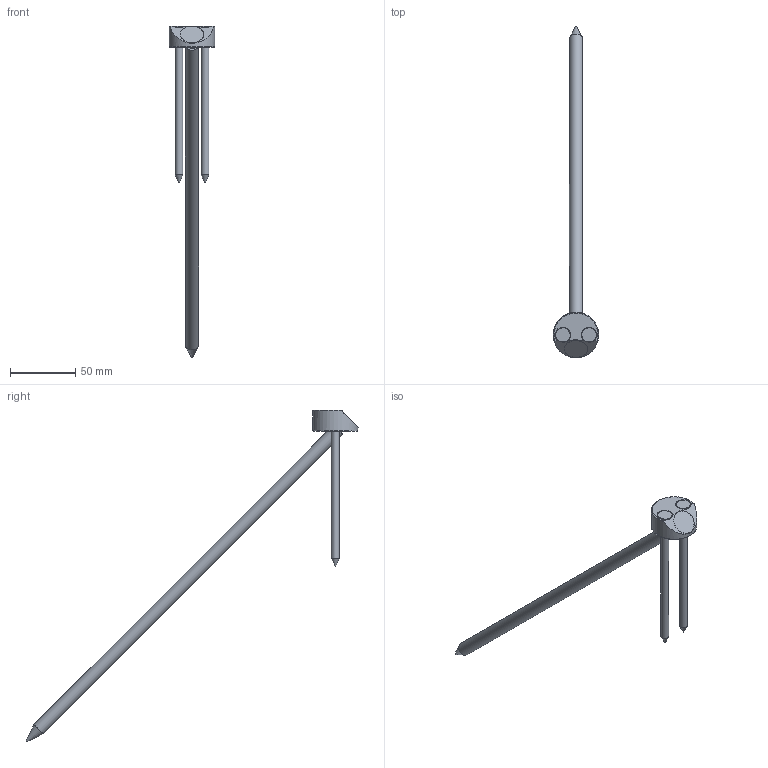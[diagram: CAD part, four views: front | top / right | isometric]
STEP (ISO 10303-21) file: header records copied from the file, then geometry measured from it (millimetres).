
FILE_DESCRIPTION(/* description */ ('Unknown'),/* implementation_level */ '2;1');
FILE_NAME(/* name */ 'T-JOINT_D35_W45_2xSK 6x120_1xSK 10x350',/* time_stamp */ '2022-02-03T13:22:51+01:00',/* author */ ('Unknown'),/* organization */ ('Unknown'),/* preprocessor_version */ 'ST-DEVELOPER v16.7',/* originating_system */ 'Solid Edge',/* authorisation */ 'Unknown');
FILE_SCHEMA (('AUTOMOTIVE_DESIGN {1 0 10303 214 3 1 1}'));
Length unit declared in the file: millimetre
Products named in the file (4): T-Joint_D35_W45_SK-10x350_2xSK-6x120; T-Joint_D35_W45; SK Schraube 6x120_ohne_Gewinde; SK Schraube 10x350_ohne_Gewinde_22042020
Assembly tree (4 placements, depth 2):
  T-Joint_D35_W45_SK-10x350_2xSK-6x120
    T-Joint_D35_W45
    SK Schraube 6x120_ohne_Gewinde  x2
    SK Schraube 10x350_ohne_Gewinde_22042020
Bounding box: 34.78 x 254.48 x 254.2 mm (x, y, z)
Volume: 44434.6 mm3; surface area: 20008.7 mm2
Topology: 4 solids, 4 shells, 35 faces, 73 edges, 45 vertices
Faces by surface type: cylinder 12, plane 11, cone 9, torus 3
Full cylindrical faces by diameter (mm): 6 x2, 6.2 x2, 6.3 x1, 10 x2, 11 x2, 12.5 x1, 18 x1, 34.8 x1
Entity records: 771 total; most frequent: DIRECTION 130, CARTESIAN_POINT 126, ORIENTED_EDGE 76, AXIS2_PLACEMENT_3D 63, EDGE_LOOP 53, FACE_BOUND 53, EDGE_CURVE 38, VERTEX_POINT 33
